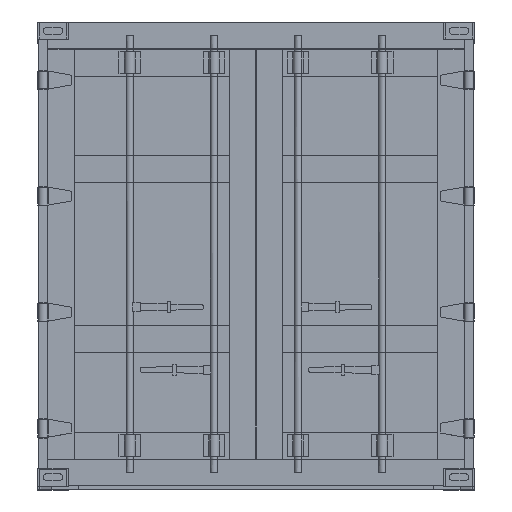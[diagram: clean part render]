
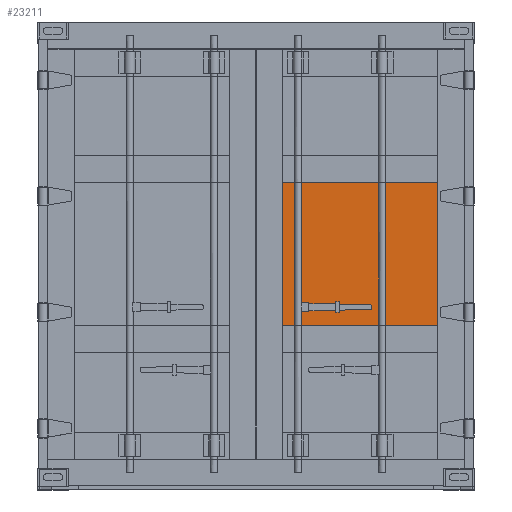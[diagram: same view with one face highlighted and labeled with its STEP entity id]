
A CAD part, top view. The second image highlights one B-rep face of the part: STEP entity #23211.
In plain terms, the highlighted planar face has unit normal (0, 0, 1).
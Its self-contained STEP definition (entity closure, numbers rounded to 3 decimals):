
#1531=FACE_OUTER_BOUND('',#2682,.T.);
#2682=EDGE_LOOP('',(#20446,#20447,#20448,#20449));
#5710=LINE('',#36371,#8854);
#5724=LINE('',#36401,#8868);
#5741=LINE('',#36432,#8885);
#5742=LINE('',#36433,#8886);
#8854=VECTOR('',#29885,10.);
#8868=VECTOR('',#29907,10.);
#8885=VECTOR('',#29936,10.);
#8886=VECTOR('',#29937,10.);
#11040=VERTEX_POINT('',#36369);
#11041=VERTEX_POINT('',#36370);
#11052=VERTEX_POINT('',#36399);
#11053=VERTEX_POINT('',#36400);
#14272=EDGE_CURVE('',#11040,#11041,#5710,.T.);
#14286=EDGE_CURVE('',#11052,#11053,#5724,.T.);
#14303=EDGE_CURVE('',#11052,#11041,#5741,.T.);
#14304=EDGE_CURVE('',#11040,#11053,#5742,.T.);
#20446=ORIENTED_EDGE('',*,*,#14272,.T.);
#20447=ORIENTED_EDGE('',*,*,#14303,.F.);
#20448=ORIENTED_EDGE('',*,*,#14286,.T.);
#20449=ORIENTED_EDGE('',*,*,#14304,.F.);
#22120=PLANE('',#24514);
#23211=ADVANCED_FACE('',(#1531),#22120,.T.);
#24514=AXIS2_PLACEMENT_3D('',#36431,#29934,#29935);
#29885=DIRECTION('',(-1.,0.,0.));
#29907=DIRECTION('',(1.,0.,0.));
#29934=DIRECTION('center_axis',(0.,0.,1.));
#29935=DIRECTION('ref_axis',(1.,0.,0.));
#29936=DIRECTION('',(0.,1.,0.));
#29937=DIRECTION('',(0.,-1.,0.));
#36369=CARTESIAN_POINT('',(1013.,1695.5,6014.));
#36370=CARTESIAN_POINT('',(150.5,1695.5,6014.));
#36371=CARTESIAN_POINT('',(797.375,1695.5,6014.));
#36399=CARTESIAN_POINT('',(150.5,895.5,6014.));
#36400=CARTESIAN_POINT('',(1013.,895.5,6014.));
#36401=CARTESIAN_POINT('',(366.125,895.5,6014.));
#36431=CARTESIAN_POINT('Origin',(581.75,1295.5,6014.));
#36432=CARTESIAN_POINT('',(150.5,2439.5,6014.));
#36433=CARTESIAN_POINT('',(1013.,151.5,6014.));
